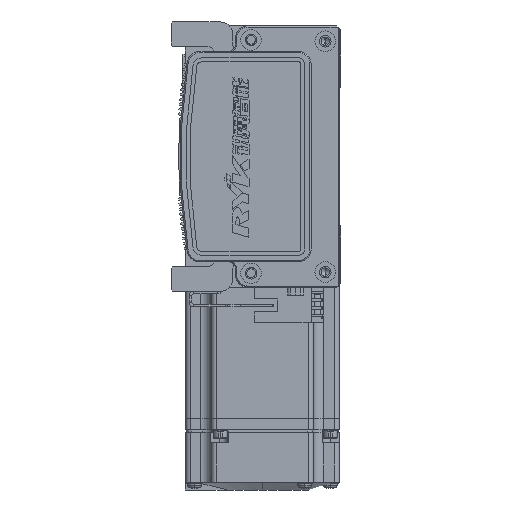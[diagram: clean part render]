
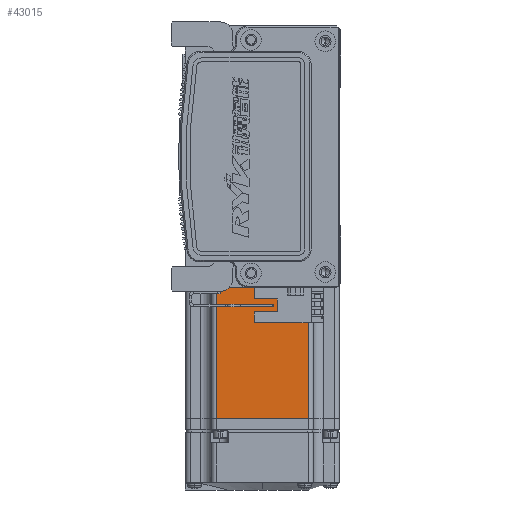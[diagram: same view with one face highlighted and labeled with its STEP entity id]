
A CAD part, left-side view. The second image highlights one B-rep face of the part: STEP entity #43015.
In plain terms, the highlighted planar face has unit normal (-1, 0, 0) as drawn and (0, 0, 1) by its records, which use the part's own axes.
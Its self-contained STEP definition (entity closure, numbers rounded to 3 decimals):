
#604 = CARTESIAN_POINT ( 'NONE',  ( -70.95, -18., 30. ) ) ;
#4041 = DIRECTION ( 'NONE',  ( -1., 0., 0. ) ) ;
#5237 = EDGE_CURVE ( 'NONE', #31283, #22737, #43480, .T. ) ;
#8236 = LINE ( 'NONE', #23634, #46802 ) ;
#9671 = ORIENTED_EDGE ( 'NONE', *, *, #61906, .F. ) ;
#9968 = DIRECTION ( 'NONE',  ( 1., 0., 0. ) ) ;
#14741 = CARTESIAN_POINT ( 'NONE',  ( -6.5, -25., 30. ) ) ;
#14835 = CARTESIAN_POINT ( 'NONE',  ( -7.75, 0., 30. ) ) ;
#15685 = LINE ( 'NONE', #14835, #31797 ) ;
#15939 = FACE_OUTER_BOUND ( 'NONE', #60863, .T. ) ;
#17324 = VECTOR ( 'NONE', #46404, 1000. ) ;
#17365 = CARTESIAN_POINT ( 'NONE',  ( -6.5, 18., 30. ) ) ;
#19687 = DIRECTION ( 'NONE',  ( 0., 0., 1. ) ) ;
#22737 = VERTEX_POINT ( 'NONE', #42912 ) ;
#23634 = CARTESIAN_POINT ( 'NONE',  ( -6.5, -18., 30. ) ) ;
#23744 = VERTEX_POINT ( 'NONE', #46442 ) ;
#25129 = DIRECTION ( 'NONE',  ( 0., -1., 0. ) ) ;
#30676 = ORIENTED_EDGE ( 'NONE', *, *, #5237, .T. ) ;
#30807 = EDGE_CURVE ( 'NONE', #23744, #38692, #8236, .T. ) ;
#31283 = VERTEX_POINT ( 'NONE', #33446 ) ;
#31797 = VECTOR ( 'NONE', #25129, 1000. ) ;
#32047 = AXIS2_PLACEMENT_3D ( 'NONE', #14741, #19687, #9968 ) ;
#33446 = CARTESIAN_POINT ( 'NONE',  ( -7.75, 18., 30. ) ) ;
#33618 = VECTOR ( 'NONE', #52283, 1000. ) ;
#35343 = PLANE ( 'NONE',  #32047 ) ;
#35463 = ORIENTED_EDGE ( 'NONE', *, *, #30807, .F. ) ;
#38692 = VERTEX_POINT ( 'NONE', #604 ) ;
#42912 = CARTESIAN_POINT ( 'NONE',  ( -70.95, 18., 30. ) ) ;
#43015 = ADVANCED_FACE ( 'NONE', ( #15939 ), #35343, .T. ) ;
#43480 = LINE ( 'NONE', #17365, #17324 ) ;
#43637 = LINE ( 'NONE', #46685, #33618 ) ;
#46404 = DIRECTION ( 'NONE',  ( -1., 0., 0. ) ) ;
#46442 = CARTESIAN_POINT ( 'NONE',  ( -7.75, -18., 30. ) ) ;
#46685 = CARTESIAN_POINT ( 'NONE',  ( -70.95, 0., 30. ) ) ;
#46802 = VECTOR ( 'NONE', #4041, 1000. ) ;
#50631 = EDGE_CURVE ( 'NONE', #22737, #38692, #43637, .T. ) ;
#52283 = DIRECTION ( 'NONE',  ( 0., -1., 0. ) ) ;
#60863 = EDGE_LOOP ( 'NONE', ( #9671, #30676, #63416, #35463 ) ) ;
#61906 = EDGE_CURVE ( 'NONE', #31283, #23744, #15685, .T. ) ;
#63416 = ORIENTED_EDGE ( 'NONE', *, *, #50631, .T. ) ;
